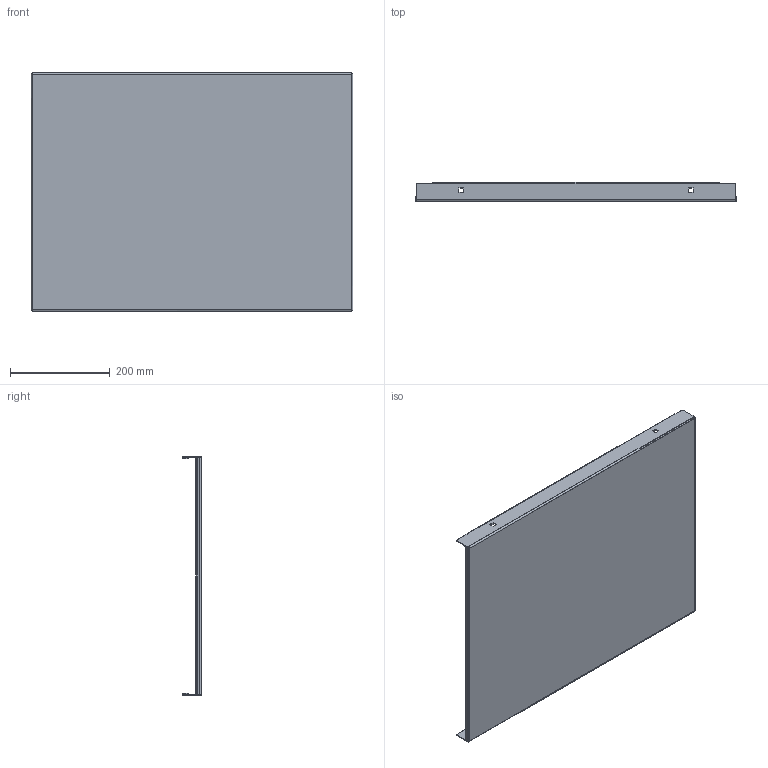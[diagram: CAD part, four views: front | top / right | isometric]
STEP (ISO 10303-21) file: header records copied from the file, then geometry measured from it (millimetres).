
FILE_DESCRIPTION((''),'2;1');
FILE_NAME('BSH-5A-26','2013-08-09T',('bmann'),('Middle Atlantic Products'),'PRO/ENGINEER BY PARAMETRIC TECHNOLOGY CORPORATION, 2012420','PRO/ENGINEER BY PARAMETRIC TECHNOLOGY CORPORATION, 2012420','');
FILE_SCHEMA(('CONFIG_CONTROL_DESIGN'));
Length unit declared in the file: inch
Products named in the file (1): BSH-5A-26
Bounding box: 643.13 x 38.1 x 477.82 mm (x, y, z)
Volume: 578812.9 mm3; surface area: 763656.3 mm2
Topology: 1 solids, 1 shells, 118 faces, 284 edges, 168 vertices
Faces by surface type: plane 90, cylinder 20, bspline 8
Entity records: 3620 total; most frequent: CARTESIAN_POINT 882, ORIENTED_EDGE 568, DIRECTION 520, EDGE_CURVE 284, VECTOR 236, LINE 236, VERTEX_POINT 168, AXIS2_PLACEMENT_3D 142
